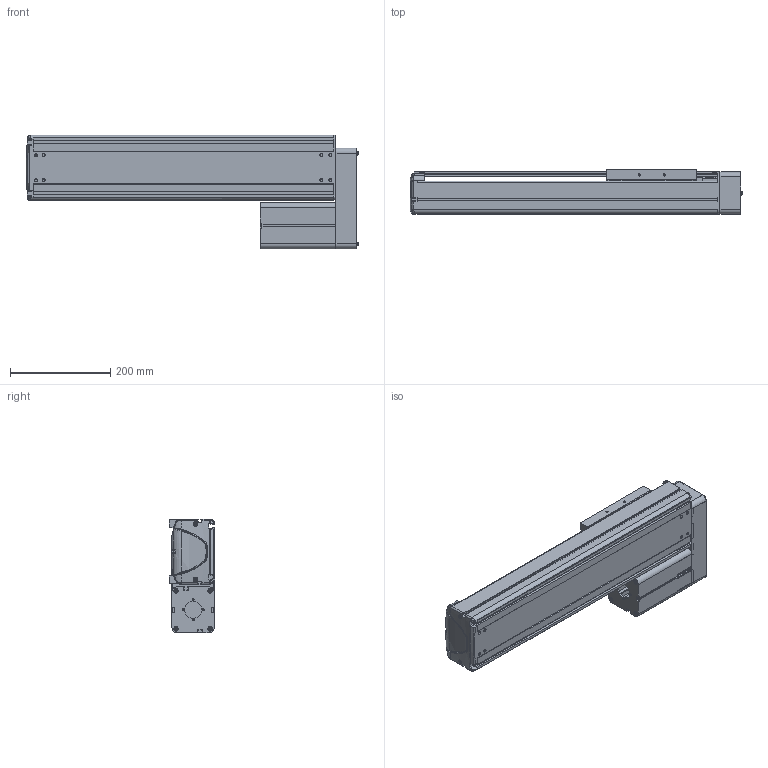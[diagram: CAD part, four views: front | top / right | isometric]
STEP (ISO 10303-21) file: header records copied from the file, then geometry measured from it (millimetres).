
FILE_DESCRIPTION((''),'2;1');
FILE_NAME('BE30E-UL-L_N-35_IGS_PRT','2017-06-17T',(' '),(''),'PRO/ENGINEER BY PARAMETRIC TECHNOLOGY CORPORATION, 2015030','PRO/ENGINEER BY PARAMETRIC TECHNOLOGY CORPORATION, 2015030','');
FILE_SCHEMA(('CONFIG_CONTROL_DESIGN'));
Products named in the file (1): BE30E-UL-L_N-35_IGS_PRT
Bounding box: 661.9 x 89.8 x 227 mm (x, y, z)
Volume: 2543307.7 mm3; surface area: 1087193 mm2
Topology: 2 solids, 112 shells, 1997 faces, 5371 edges, 3484 vertices
Faces by surface type: plane 998, cylinder 805, cone 101, torus 39, bspline 30, sphere 24
Entity records: 64557 total; most frequent: CARTESIAN_POINT 13660, DIRECTION 10755, ORIENTED_EDGE 10250, EDGE_CURVE 5333, AXIS2_PLACEMENT_3D 3770, VERTEX_POINT 3484, VECTOR 3215, LINE 3215
